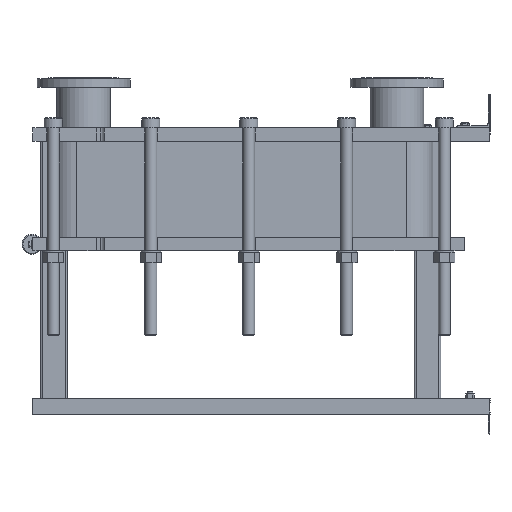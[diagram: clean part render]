
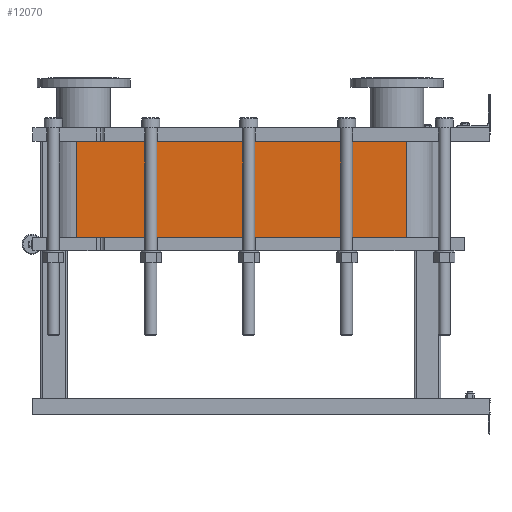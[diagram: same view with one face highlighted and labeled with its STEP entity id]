
A CAD part, left-side view. The second image highlights one B-rep face of the part: STEP entity #12070.
In plain terms, the highlighted planar face has unit normal (-1, 0, 0).
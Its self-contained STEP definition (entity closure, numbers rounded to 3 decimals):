
#1064=LINE('',#21140,#2164);
#1065=LINE('',#21144,#2165);
#1066=LINE('',#21146,#2166);
#1067=LINE('',#21147,#2167);
#2164=VECTOR('',#15790,10.);
#2165=VECTOR('',#15795,10.);
#2166=VECTOR('',#15796,10.);
#2167=VECTOR('',#15797,10.);
#3304=FACE_OUTER_BOUND('',#4091,.T.);
#4091=EDGE_LOOP('',(#9793,#9794,#9795,#9796));
#5677=VERTEX_POINT('',#21137);
#5678=VERTEX_POINT('',#21139);
#5679=VERTEX_POINT('',#21143);
#5680=VERTEX_POINT('',#21145);
#7118=EDGE_CURVE('',#5678,#5677,#1064,.T.);
#7120=EDGE_CURVE('',#5677,#5679,#1065,.T.);
#7121=EDGE_CURVE('',#5680,#5679,#1066,.T.);
#7122=EDGE_CURVE('',#5680,#5678,#1067,.T.);
#9793=ORIENTED_EDGE('',*,*,#7120,.T.);
#9794=ORIENTED_EDGE('',*,*,#7121,.F.);
#9795=ORIENTED_EDGE('',*,*,#7122,.T.);
#9796=ORIENTED_EDGE('',*,*,#7118,.T.);
#11441=PLANE('',#13191);
#12070=ADVANCED_FACE('',(#3304),#11441,.T.);
#13191=AXIS2_PLACEMENT_3D('',#21142,#15793,#15794);
#15790=DIRECTION('',(0.,0.,-1.));
#15793=DIRECTION('center_axis',(-1.,0.,0.));
#15794=DIRECTION('ref_axis',(0.,1.,0.));
#15795=DIRECTION('',(0.,-1.,0.));
#15796=DIRECTION('',(0.,0.,-1.));
#15797=DIRECTION('',(0.,1.,0.));
#21137=CARTESIAN_POINT('',(-248.152,1243.818,-289.8));
#21139=CARTESIAN_POINT('',(-248.152,1243.818,0.));
#21140=CARTESIAN_POINT('',(-248.152,1243.818,0.));
#21142=CARTESIAN_POINT('Origin',(-248.152,251.818,0.));
#21143=CARTESIAN_POINT('',(-248.152,251.818,-289.8));
#21144=CARTESIAN_POINT('',(-248.152,499.818,-289.8));
#21145=CARTESIAN_POINT('',(-248.152,251.818,0.));
#21146=CARTESIAN_POINT('',(-248.152,251.818,0.));
#21147=CARTESIAN_POINT('',(-248.152,251.818,0.));
